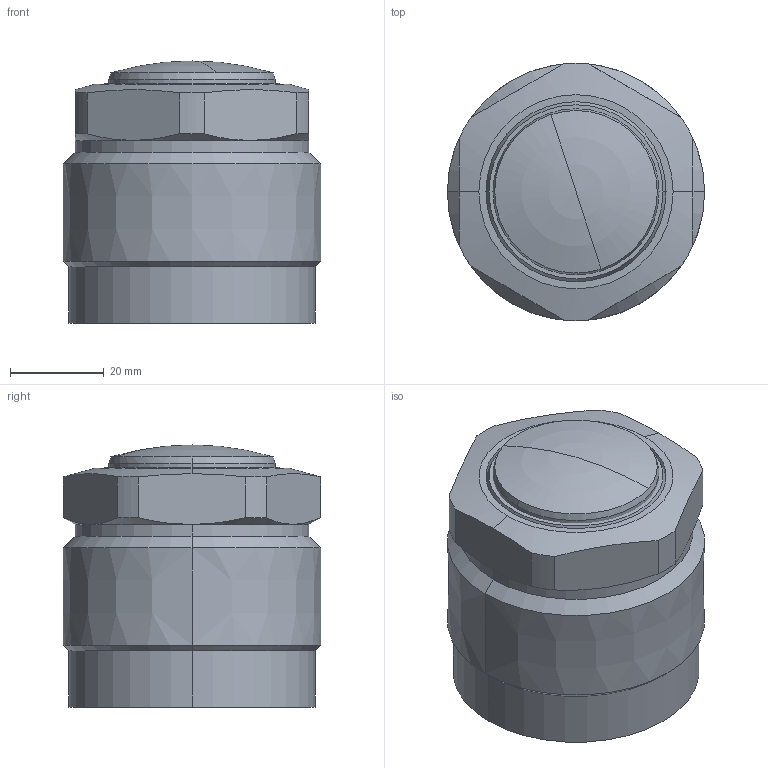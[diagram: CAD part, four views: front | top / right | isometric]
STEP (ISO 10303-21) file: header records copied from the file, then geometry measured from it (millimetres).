
FILE_DESCRIPTION((' '),'2;1');
FILE_NAME( 'TGP55-RS.x_t.stp', '2025-02-10T16:03:58', (' '), ('--- Datakit www.datakit.com---'), ' Datakit CrossCadWare V2024.1 Dec 21 2023', 'Mastercam 2025', ' ');
FILE_SCHEMA(('AUTOMOTIVE_DESIGN { 1 0 10303 214 1 1 1 1 }'));
Length unit declared in the file: millimetre
Products named in the file (1): TGP55-RS
Bounding box: 55 x 55 x 56 mm (x, y, z)
Volume: 126081.8 mm3; surface area: 17899 mm2
Topology: 2 solids, 2 shells, 64 faces, 148 edges, 90 vertices
Faces by surface type: cylinder 24, cone 20, plane 14, torus 6
Entity records: 1922 total; most frequent: CARTESIAN_POINT 435, DIRECTION 334, ORIENTED_EDGE 288, AXIS2_PLACEMENT_3D 145, EDGE_CURVE 144, VERTEX_POINT 90, CIRCLE 80, EDGE_LOOP 70
